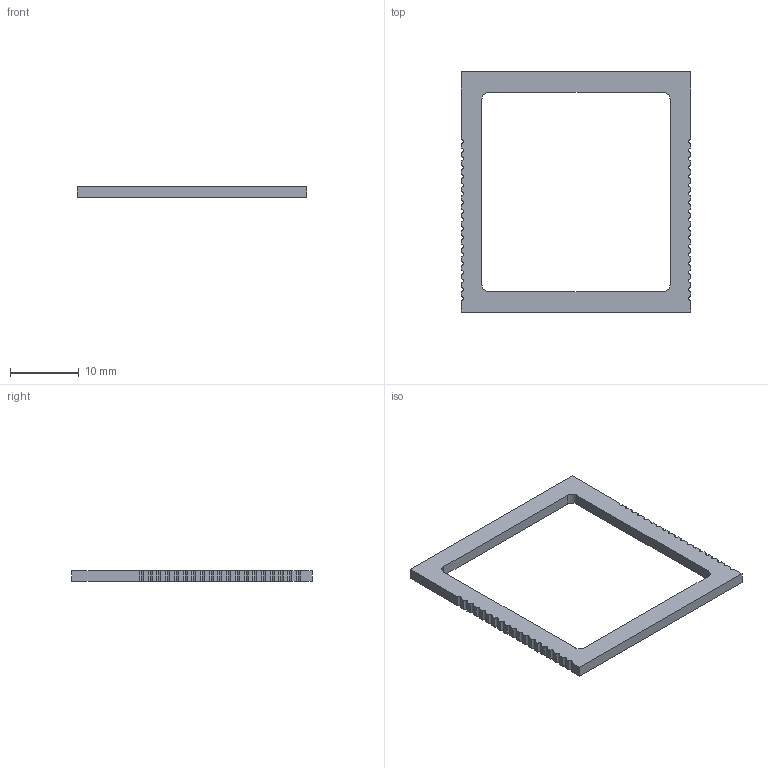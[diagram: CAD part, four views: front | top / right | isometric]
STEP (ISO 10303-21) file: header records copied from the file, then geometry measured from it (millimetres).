
FILE_DESCRIPTION(('FreeCAD Model'),'2;1');
FILE_NAME('Open CASCADE Shape Model','2022-08-27T17:21:11',('Author'),( ''),'Open CASCADE STEP processor 7.5','FreeCAD','Unknown');
FILE_SCHEMA(('AUTOMOTIVE_DESIGN { 1 0 10303 214 1 1 1 1 }'));
Length unit declared in the file: millimetre
Products named in the file (1): PCB218
Bounding box: 33.4 x 35 x 1.59 mm (x, y, z)
Volume: 588.1 mm3; surface area: 1154.6 mm2
Topology: 1 solids, 1 shells, 109 faces, 321 edges, 214 vertices
Faces by surface type: cylinder 61, plane 48
Entity records: 7876 total; most frequent: DIRECTION 1305, CARTESIAN_POINT 1287, LINE 719, VECTOR 719, ORIENTED_EDGE 642, PCURVE 642, DEFINITIONAL_REPRESENTATION 642, EDGE_CURVE 321
